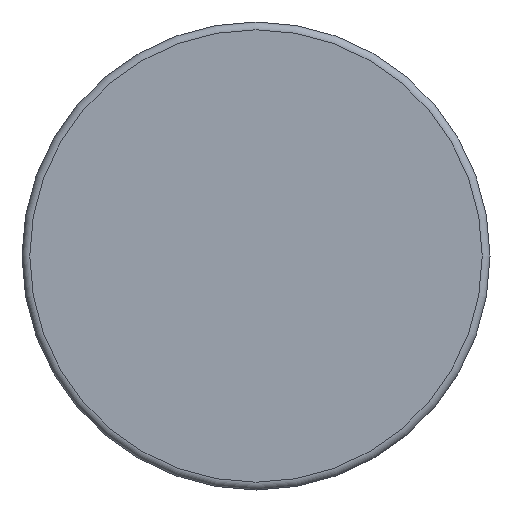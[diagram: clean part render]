
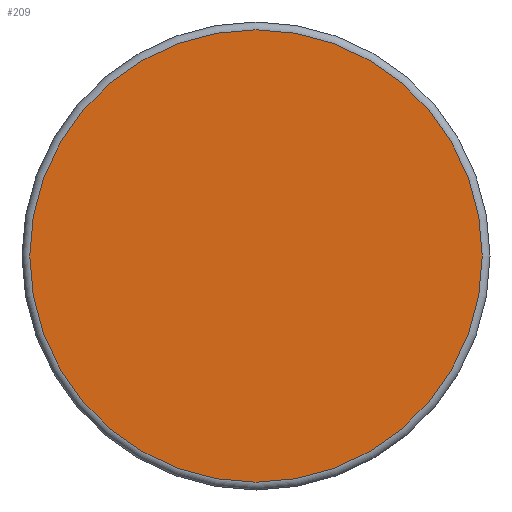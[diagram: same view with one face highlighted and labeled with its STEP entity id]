
A CAD part, front view. The second image highlights one B-rep face of the part: STEP entity #209.
In plain terms, the highlighted planar face has unit normal (0, -1, 0).
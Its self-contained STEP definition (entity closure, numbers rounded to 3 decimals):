
#209 = ADVANCED_FACE( '', ( #406 ), #407, .F. );
#406 = FACE_OUTER_BOUND( '', #606, .T. );
#407 = PLANE( '', #607 );
#606 = EDGE_LOOP( '', ( #933 ) );
#607 = AXIS2_PLACEMENT_3D( '', #934, #935, #936 );
#933 = ORIENTED_EDGE( '', *, *, #1224, .T. );
#934 = CARTESIAN_POINT( '', ( 29., 0., 0. ) );
#935 = DIRECTION( '', ( 0., 1., 0. ) );
#936 = DIRECTION( '', ( 0., 0., 1. ) );
#1224 = EDGE_CURVE( '', #1437, #1437, #1438, .T. );
#1437 = VERTEX_POINT( '', #1913 );
#1438 = CIRCLE( '', #1914, 29. );
#1913 = CARTESIAN_POINT( '', ( 0., 0., -29. ) );
#1914 = AXIS2_PLACEMENT_3D( '', #2118, #2119, #2120 );
#2118 = CARTESIAN_POINT( '', ( 0., 0., 0. ) );
#2119 = DIRECTION( '', ( 0., -1., 0. ) );
#2120 = DIRECTION( '', ( 0., 0., -1. ) );
